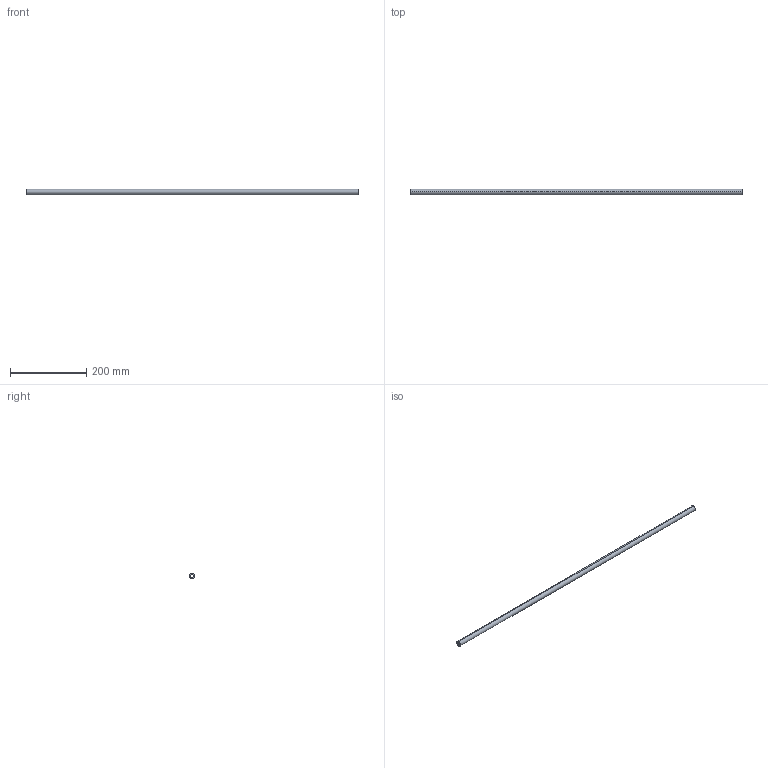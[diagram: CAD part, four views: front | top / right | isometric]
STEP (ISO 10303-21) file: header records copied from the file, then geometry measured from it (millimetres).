
FILE_DESCRIPTION (( 'STEP AP214' ), '1' );
FILE_NAME ('SyncronisationsstangeXP_KAB_1000_16.step', '2009-11-24T08:53:26', ( 'Grass' ), ( 'Grass GmbH' ), 'SwSTEP 2.0', 'SolidWorks 2009', '' );
FILE_SCHEMA (( 'AUTOMOTIVE_DESIGN' ));
Length unit declared in the file: millimetre
Products named in the file (1): SyncronisationsstangeXP_KAB_1000_16
Bounding box: 871 x 14 x 14 mm (x, y, z)
Volume: 94181 mm3; surface area: 60718.7 mm2
Topology: 1 solids, 1 shells, 15 faces, 39 edges, 26 vertices
Faces by surface type: cylinder 11, plane 4
Entity records: 513 total; most frequent: DIRECTION 93, CARTESIAN_POINT 81, ORIENTED_EDGE 78, EDGE_CURVE 39, AXIS2_PLACEMENT_3D 38, VERTEX_POINT 26, CIRCLE 22, VECTOR 17
